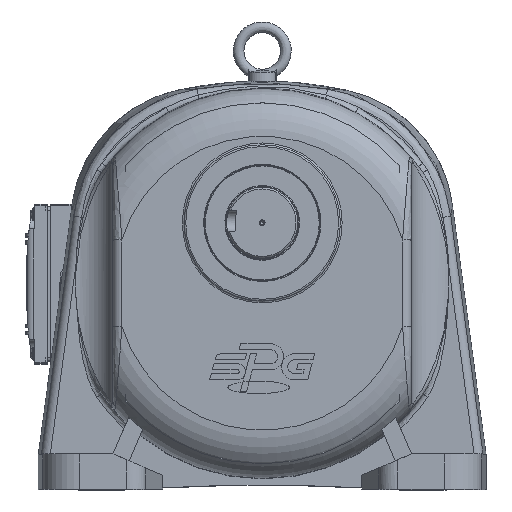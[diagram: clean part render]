
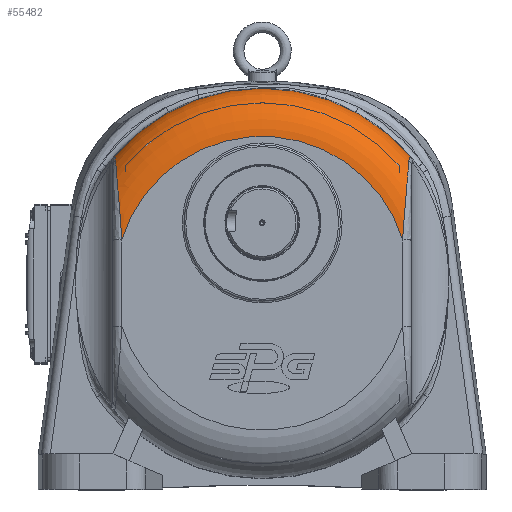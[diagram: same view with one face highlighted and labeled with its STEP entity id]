
A CAD part, top view. The second image highlights one B-rep face of the part: STEP entity #55482.
In plain terms, the highlighted toroidal (fillet/blend) face has major radius 82.678 mm and minor radius 27 mm.
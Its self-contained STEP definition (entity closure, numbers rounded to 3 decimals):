
#498=TOROIDAL_SURFACE('',#60254,82.678,27.);
#9890=FACE_OUTER_BOUND('',#13356,.T.);
#13356=EDGE_LOOP('',(#40994,#40995,#40996,#40997,#40998,#40999));
#16914=CIRCLE('',#60175,82.678);
#16968=CIRCLE('',#60255,109.669);
#19169=B_SPLINE_CURVE_WITH_KNOTS('',3,(#92654,#92655,#92656,#92657,#92658),
 .UNSPECIFIED.,.F.,.F.,(4,1,4),(-0.783,-0.447,0.),
 .UNSPECIFIED.);
#19171=B_SPLINE_CURVE_WITH_KNOTS('',3,(#92786,#92787,#92788,#92789,#92790,
#92791,#92792,#92793,#92794,#92795),.UNSPECIFIED.,.F.,.F.,(4,1,1,1,1,1,
1,4),(-4.597,-3.776,-3.284,-1.97,
-1.642,-0.657,-0.493,0.),.UNSPECIFIED.);
#19179=B_SPLINE_CURVE_WITH_KNOTS('',3,(#93008,#93009,#93010,#93011,#93012,
#93013,#93014,#93015,#93016),.UNSPECIFIED.,.F.,.F.,(4,1,1,1,1,1,4),(-14.071,
-13.415,-12.758,-12.43,-12.101,
-10.788,-9.474),.UNSPECIFIED.);
#19181=B_SPLINE_CURVE_WITH_KNOTS('',3,(#93097,#93098,#93099,#93100,#93101),
 .UNSPECIFIED.,.F.,.F.,(4,1,4),(-0.783,-0.447,0.),
 .UNSPECIFIED.);
#22969=VERTEX_POINT('',#91460);
#22971=VERTEX_POINT('',#91463);
#23076=VERTEX_POINT('',#92651);
#23077=VERTEX_POINT('',#92653);
#23088=VERTEX_POINT('',#93006);
#23089=VERTEX_POINT('',#93095);
#29215=EDGE_CURVE('',#22971,#22969,#16914,.T.);
#29333=EDGE_CURVE('',#23076,#23077,#19169,.T.);
#29338=EDGE_CURVE('',#22971,#23076,#19171,.T.);
#29353=EDGE_CURVE('',#23088,#22969,#19179,.T.);
#29357=EDGE_CURVE('',#23089,#23088,#19181,.T.);
#29385=EDGE_CURVE('',#23089,#23077,#16968,.T.);
#40994=ORIENTED_EDGE('',*,*,#29385,.T.);
#40995=ORIENTED_EDGE('',*,*,#29333,.F.);
#40996=ORIENTED_EDGE('',*,*,#29338,.F.);
#40997=ORIENTED_EDGE('',*,*,#29215,.T.);
#40998=ORIENTED_EDGE('',*,*,#29353,.F.);
#40999=ORIENTED_EDGE('',*,*,#29357,.F.);
#55482=ADVANCED_FACE('',(#9890),#498,.T.);
#60175=AXIS2_PLACEMENT_3D('',#91464,#70284,#70285);
#60254=AXIS2_PLACEMENT_3D('',#93226,#70523,#70524);
#60255=AXIS2_PLACEMENT_3D('',#93227,#70525,#70526);
#70284=DIRECTION('center_axis',(0.,0.,-1.));
#70285=DIRECTION('ref_axis',(-1.,0.,0.));
#70523=DIRECTION('center_axis',(0.,0.,-1.));
#70524=DIRECTION('ref_axis',(-1.,0.,0.));
#70525=DIRECTION('center_axis',(0.,0.,1.));
#70526=DIRECTION('ref_axis',(-1.,0.,0.));
#91460=CARTESIAN_POINT('',(90.109,36.478,59.5));
#91463=CARTESIAN_POINT('',(-67.891,36.478,59.5));
#91464=CARTESIAN_POINT('Origin',(11.109,12.094,59.5));
#92651=CARTESIAN_POINT('',(-71.458,81.448,42.318));
#92653=CARTESIAN_POINT('',(-72.803,82.706,33.186));
#92654=CARTESIAN_POINT('Ctrl Pts',(-71.458,81.448,42.318));
#92655=CARTESIAN_POINT('Ctrl Pts',(-71.51,82.098,41.145));
#92656=CARTESIAN_POINT('Ctrl Pts',(-71.749,83.289,38.106));
#92657=CARTESIAN_POINT('Ctrl Pts',(-72.371,83.154,34.864));
#92658=CARTESIAN_POINT('Ctrl Pts',(-72.803,82.706,33.186));
#92786=CARTESIAN_POINT('Ctrl Pts',(-67.891,36.478,59.5));
#92787=CARTESIAN_POINT('Ctrl Pts',(-68.067,39.271,59.5));
#92788=CARTESIAN_POINT('Ctrl Pts',(-68.382,43.776,59.415));
#92789=CARTESIAN_POINT('Ctrl Pts',(-69.088,52.909,58.681));
#92790=CARTESIAN_POINT('Ctrl Pts',(-69.726,60.519,57.228));
#92791=CARTESIAN_POINT('Ctrl Pts',(-70.481,69.517,53.662));
#92792=CARTESIAN_POINT('Ctrl Pts',(-70.885,74.383,50.691));
#92793=CARTESIAN_POINT('Ctrl Pts',(-71.254,78.917,46.159));
#92794=CARTESIAN_POINT('Ctrl Pts',(-71.381,80.493,44.041));
#92795=CARTESIAN_POINT('Ctrl Pts',(-71.458,81.448,42.318));
#93006=CARTESIAN_POINT('',(93.675,81.448,42.318));
#93008=CARTESIAN_POINT('Ctrl Pts',(93.675,81.448,42.318));
#93009=CARTESIAN_POINT('Ctrl Pts',(93.573,80.175,44.615));
#93010=CARTESIAN_POINT('Ctrl Pts',(93.303,76.829,48.704));
#93011=CARTESIAN_POINT('Ctrl Pts',(92.879,71.687,52.331));
#93012=CARTESIAN_POINT('Ctrl Pts',(92.509,67.266,54.554));
#93013=CARTESIAN_POINT('Ctrl Pts',(91.944,60.521,57.223));
#93014=CARTESIAN_POINT('Ctrl Pts',(91.06,49.985,59.239));
#93015=CARTESIAN_POINT('Ctrl Pts',(90.389,40.946,59.5));
#93016=CARTESIAN_POINT('Ctrl Pts',(90.109,36.478,59.5));
#93095=CARTESIAN_POINT('',(95.021,82.706,33.186));
#93097=CARTESIAN_POINT('Ctrl Pts',(95.021,82.706,33.186));
#93098=CARTESIAN_POINT('Ctrl Pts',(94.696,83.042,34.445));
#93099=CARTESIAN_POINT('Ctrl Pts',(94.027,83.36,37.649));
#93100=CARTESIAN_POINT('Ctrl Pts',(93.744,82.314,40.754));
#93101=CARTESIAN_POINT('Ctrl Pts',(93.675,81.448,42.318));
#93226=CARTESIAN_POINT('Origin',(11.109,12.094,32.5));
#93227=CARTESIAN_POINT('Origin',(11.109,12.094,33.186));
